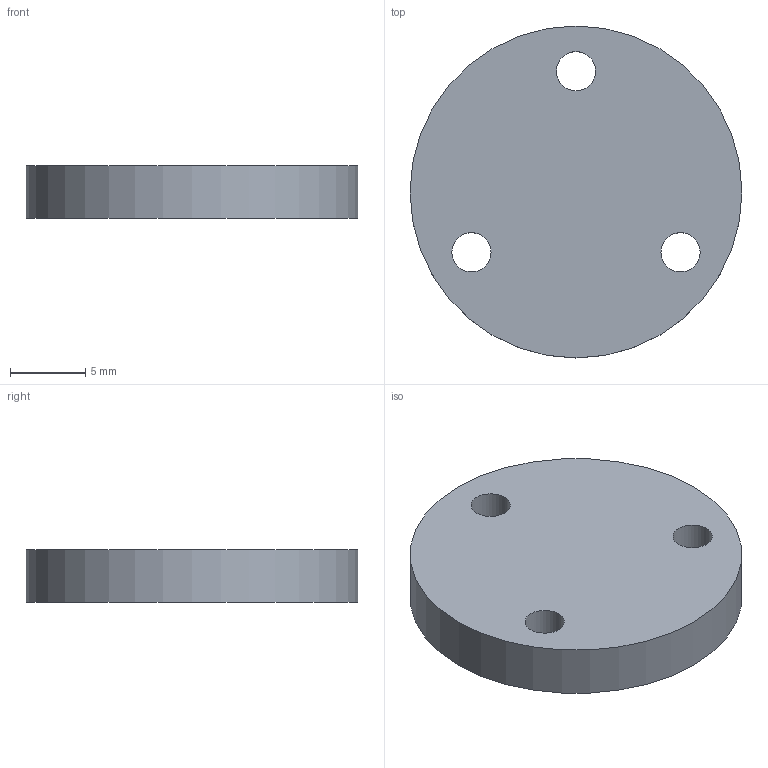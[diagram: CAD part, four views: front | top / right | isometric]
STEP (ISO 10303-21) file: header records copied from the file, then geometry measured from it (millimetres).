
FILE_DESCRIPTION(('Open CASCADE Model'),'2;1');
FILE_NAME('Open CASCADE Shape Model','2026-10-17T23:18:56',('Author'),( 'Open CASCADE'),'Open CASCADE STEP processor 7.9','Open CASCADE 7.9' ,'Unknown');
FILE_SCHEMA(('AUTOMOTIVE_DESIGN { 1 0 10303 214 1 1 1 1 }'));
Length unit declared in the file: millimetre
Products named in the file (1): Open CASCADE STEP translator 7.9 26
Bounding box: 22 x 22 x 3.5 mm (x, y, z)
Volume: 1274.7 mm3; surface area: 1056.1 mm2
Topology: 1 solids, 1 shells, 6 faces, 12 edges, 8 vertices
Faces by surface type: cylinder 4, plane 2
Full cylindrical faces by diameter (mm): 2.6 x3, 22 x1
Entity records: 360 total; most frequent: CARTESIAN_POINT 87, DIRECTION 52, ORIENTED_EDGE 24, PCURVE 24, DEFINITIONAL_REPRESENTATION 24, LINE 20, VECTOR 20, AXIS2_PLACEMENT_3D 15
